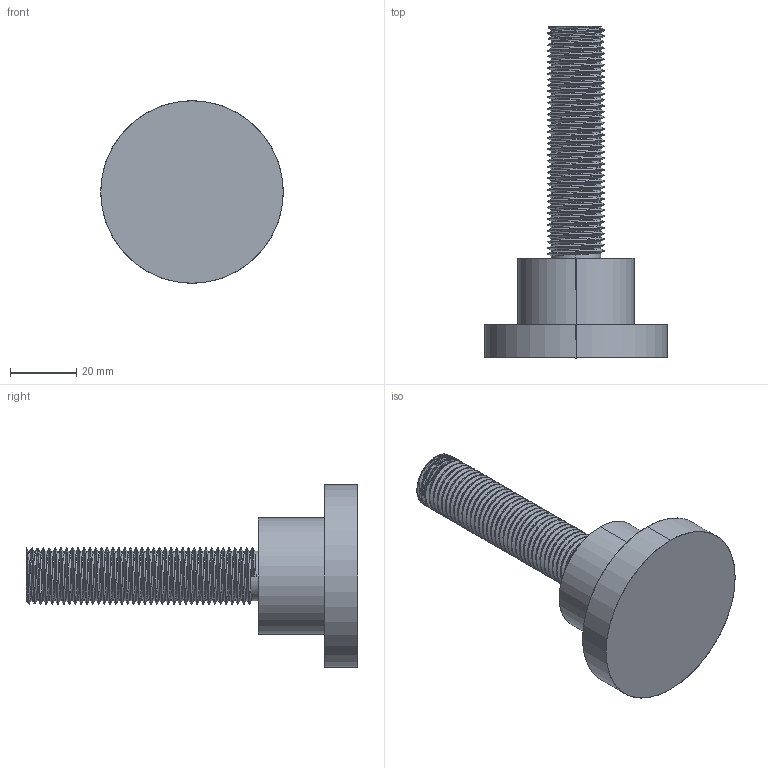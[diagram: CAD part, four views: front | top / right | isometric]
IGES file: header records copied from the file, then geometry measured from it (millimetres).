
Start section: SolidWorks IGES file using analytic representation for surfaces
Global section: file name: C:\Users\sebas\Documents\SOLIDWORKSComposer\TESIS\1. Almacenamiento\IGS\Tornillo roscado de sopote.IGS; native system: SolidWorks 2022; preprocessor: SolidWorks 2022; author: sebas; date: 220619.065126; units: millimetre
Bounding box: 55 x 100 x 55 mm (x, y, z)
Surface area: 14330.1 mm2 (no closed solid volume)
Topology: 0 solids, 0 shells, 92 faces, 3540 edges, 3540 vertices
Faces by surface type: revolution 84, bspline 8
